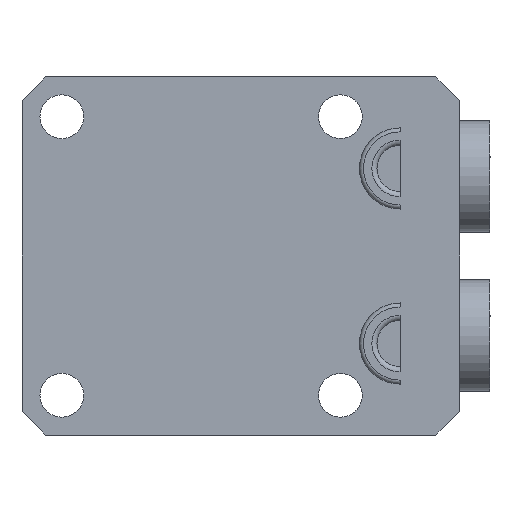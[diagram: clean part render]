
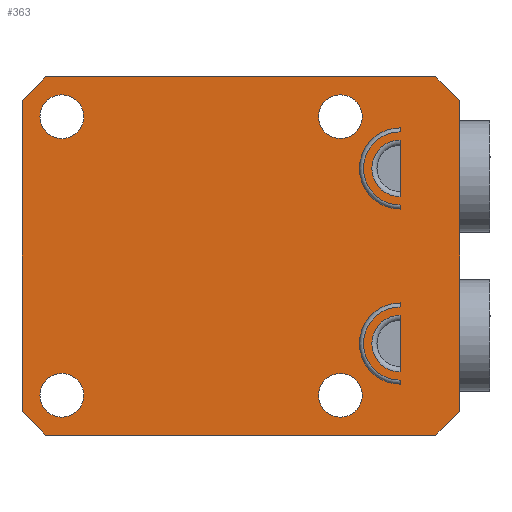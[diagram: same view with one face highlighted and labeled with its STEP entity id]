
A CAD part, front view. The second image highlights one B-rep face of the part: STEP entity #363.
In plain terms, the highlighted planar face has unit normal (0, -1, 0).
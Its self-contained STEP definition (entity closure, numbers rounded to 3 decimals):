
#234=PLANE('',#2644);
#297=FACE_BOUND('',#697,.T.);
#298=FACE_BOUND('',#698,.T.);
#299=FACE_BOUND('',#699,.T.);
#300=FACE_BOUND('',#700,.T.);
#301=FACE_BOUND('',#701,.T.);
#302=FACE_BOUND('',#702,.T.);
#303=FACE_BOUND('',#703,.T.);
#304=FACE_BOUND('',#704,.T.);
#305=FACE_BOUND('',#705,.T.);
#363=ADVANCED_FACE('',(#297,#298,#299,#300,#301,#302,#303,#304,#305),#234,
 .F.);
#697=EDGE_LOOP('',(#1074,#1075,#1076,#1077,#1078,#1079,#1080,#1081));
#698=EDGE_LOOP('',(#1082,#1083,#1084,#1085));
#699=EDGE_LOOP('',(#1086,#1087,#1088,#1089));
#700=EDGE_LOOP('',(#1090,#1091));
#701=EDGE_LOOP('',(#1092,#1093));
#702=EDGE_LOOP('',(#1094,#1095));
#703=EDGE_LOOP('',(#1096,#1097));
#704=EDGE_LOOP('',(#1098,#1099));
#705=EDGE_LOOP('',(#1100,#1101));
#859=CIRCLE('',#2597,4.6);
#868=CIRCLE('',#2608,3.55);
#870=CIRCLE('',#2611,5.1);
#874=CIRCLE('',#2617,5.1);
#877=CIRCLE('',#2622,2.75);
#879=CIRCLE('',#2625,2.75);
#882=CIRCLE('',#2630,2.75);
#884=CIRCLE('',#2633,2.75);
#887=CIRCLE('',#2638,4.6);
#888=CIRCLE('',#2639,2.75);
#889=CIRCLE('',#2640,2.75);
#890=CIRCLE('',#2641,2.75);
#891=CIRCLE('',#2642,2.75);
#892=CIRCLE('',#2643,3.55);
#1074=ORIENTED_EDGE('',*,*,#1924,.F.);
#1075=ORIENTED_EDGE('',*,*,#1984,.T.);
#1076=ORIENTED_EDGE('',*,*,#1985,.F.);
#1077=ORIENTED_EDGE('',*,*,#1986,.T.);
#1078=ORIENTED_EDGE('',*,*,#1987,.F.);
#1079=ORIENTED_EDGE('',*,*,#1988,.T.);
#1080=ORIENTED_EDGE('',*,*,#1989,.F.);
#1081=ORIENTED_EDGE('',*,*,#1990,.T.);
#1082=ORIENTED_EDGE('',*,*,#1938,.T.);
#1083=ORIENTED_EDGE('',*,*,#1991,.T.);
#1084=ORIENTED_EDGE('',*,*,#1926,.T.);
#1085=ORIENTED_EDGE('',*,*,#1992,.T.);
#1086=ORIENTED_EDGE('',*,*,#1946,.F.);
#1087=ORIENTED_EDGE('',*,*,#1993,.T.);
#1088=ORIENTED_EDGE('',*,*,#1994,.F.);
#1089=ORIENTED_EDGE('',*,*,#1995,.T.);
#1090=ORIENTED_EDGE('',*,*,#1956,.F.);
#1091=ORIENTED_EDGE('',*,*,#1996,.F.);
#1092=ORIENTED_EDGE('',*,*,#1952,.F.);
#1093=ORIENTED_EDGE('',*,*,#1997,.F.);
#1094=ORIENTED_EDGE('',*,*,#1964,.F.);
#1095=ORIENTED_EDGE('',*,*,#1998,.F.);
#1096=ORIENTED_EDGE('',*,*,#1968,.F.);
#1097=ORIENTED_EDGE('',*,*,#1999,.F.);
#1098=ORIENTED_EDGE('',*,*,#1935,.F.);
#1099=ORIENTED_EDGE('',*,*,#2000,.T.);
#1100=ORIENTED_EDGE('',*,*,#2001,.T.);
#1101=ORIENTED_EDGE('',*,*,#2002,.T.);
#1698=VERTEX_POINT('',#3675);
#1699=VERTEX_POINT('',#3677);
#1700=VERTEX_POINT('',#3681);
#1701=VERTEX_POINT('',#3682);
#1708=VERTEX_POINT('',#3699);
#1709=VERTEX_POINT('',#3701);
#1710=VERTEX_POINT('',#3705);
#1711=VERTEX_POINT('',#3707);
#1718=VERTEX_POINT('',#3723);
#1719=VERTEX_POINT('',#3725);
#1724=VERTEX_POINT('',#3738);
#1725=VERTEX_POINT('',#3739);
#1728=VERTEX_POINT('',#3747);
#1729=VERTEX_POINT('',#3748);
#1736=VERTEX_POINT('',#3770);
#1737=VERTEX_POINT('',#3771);
#1740=VERTEX_POINT('',#3779);
#1741=VERTEX_POINT('',#3780);
#1756=VERTEX_POINT('',#3845);
#1757=VERTEX_POINT('',#3847);
#1758=VERTEX_POINT('',#3849);
#1759=VERTEX_POINT('',#3851);
#1760=VERTEX_POINT('',#3853);
#1761=VERTEX_POINT('',#3855);
#1762=VERTEX_POINT('',#3860);
#1763=VERTEX_POINT('',#3862);
#1764=VERTEX_POINT('',#3870);
#1765=VERTEX_POINT('',#3871);
#1924=EDGE_CURVE('',#1698,#1699,#2261,.T.);
#1926=EDGE_CURVE('',#1700,#1701,#859,.T.);
#1935=EDGE_CURVE('',#1708,#1709,#868,.T.);
#1938=EDGE_CURVE('',#1711,#1710,#870,.T.);
#1946=EDGE_CURVE('',#1718,#1719,#874,.T.);
#1952=EDGE_CURVE('',#1724,#1725,#877,.T.);
#1956=EDGE_CURVE('',#1728,#1729,#879,.T.);
#1964=EDGE_CURVE('',#1736,#1737,#882,.T.);
#1968=EDGE_CURVE('',#1740,#1741,#884,.T.);
#1984=EDGE_CURVE('',#1698,#1756,#2283,.T.);
#1985=EDGE_CURVE('',#1757,#1756,#2284,.T.);
#1986=EDGE_CURVE('',#1757,#1758,#2285,.T.);
#1987=EDGE_CURVE('',#1759,#1758,#2286,.T.);
#1988=EDGE_CURVE('',#1759,#1760,#2287,.T.);
#1989=EDGE_CURVE('',#1761,#1760,#2288,.T.);
#1990=EDGE_CURVE('',#1761,#1699,#2289,.T.);
#1991=EDGE_CURVE('',#1710,#1700,#2290,.T.);
#1992=EDGE_CURVE('',#1701,#1711,#2291,.T.);
#1993=EDGE_CURVE('',#1718,#1762,#2292,.T.);
#1994=EDGE_CURVE('',#1763,#1762,#887,.T.);
#1995=EDGE_CURVE('',#1763,#1719,#2293,.T.);
#1996=EDGE_CURVE('',#1729,#1728,#888,.T.);
#1997=EDGE_CURVE('',#1725,#1724,#889,.T.);
#1998=EDGE_CURVE('',#1737,#1736,#890,.T.);
#1999=EDGE_CURVE('',#1741,#1740,#891,.T.);
#2000=EDGE_CURVE('',#1708,#1709,#2294,.T.);
#2001=EDGE_CURVE('',#1764,#1765,#892,.T.);
#2002=EDGE_CURVE('',#1765,#1764,#2295,.T.);
#2261=LINE('',#3676,#2421);
#2283=LINE('',#3844,#2443);
#2284=LINE('',#3846,#2444);
#2285=LINE('',#3848,#2445);
#2286=LINE('',#3850,#2446);
#2287=LINE('',#3852,#2447);
#2288=LINE('',#3854,#2448);
#2289=LINE('',#3856,#2449);
#2290=LINE('',#3857,#2450);
#2291=LINE('',#3858,#2451);
#2292=LINE('',#3859,#2452);
#2293=LINE('',#3863,#2453);
#2294=LINE('',#3868,#2454);
#2295=LINE('',#3872,#2455);
#2421=VECTOR('',#2914,1.);
#2443=VECTOR('',#3020,1.);
#2444=VECTOR('',#3021,1.);
#2445=VECTOR('',#3022,1.);
#2446=VECTOR('',#3023,1.);
#2447=VECTOR('',#3024,1.);
#2448=VECTOR('',#3025,1.);
#2449=VECTOR('',#3026,1.);
#2450=VECTOR('',#3027,1.);
#2451=VECTOR('',#3028,1.);
#2452=VECTOR('',#3029,1.);
#2453=VECTOR('',#3032,1.);
#2454=VECTOR('',#3041,1.);
#2455=VECTOR('',#3044,1.);
#2597=AXIS2_PLACEMENT_3D('',#3680,#2918,#2919);
#2608=AXIS2_PLACEMENT_3D('',#3700,#2940,#2941);
#2611=AXIS2_PLACEMENT_3D('',#3706,#2947,#2948);
#2617=AXIS2_PLACEMENT_3D('',#3724,#2963,#2964);
#2622=AXIS2_PLACEMENT_3D('',#3737,#2976,#2977);
#2625=AXIS2_PLACEMENT_3D('',#3746,#2984,#2985);
#2630=AXIS2_PLACEMENT_3D('',#3769,#2998,#2999);
#2633=AXIS2_PLACEMENT_3D('',#3778,#3006,#3007);
#2638=AXIS2_PLACEMENT_3D('',#3861,#3030,#3031);
#2639=AXIS2_PLACEMENT_3D('',#3864,#3033,#3034);
#2640=AXIS2_PLACEMENT_3D('',#3865,#3035,#3036);
#2641=AXIS2_PLACEMENT_3D('',#3866,#3037,#3038);
#2642=AXIS2_PLACEMENT_3D('',#3867,#3039,#3040);
#2643=AXIS2_PLACEMENT_3D('',#3869,#3042,#3043);
#2644=AXIS2_PLACEMENT_3D('',#3873,#3045,#3046);
#2914=DIRECTION('',(0.,0.,-1.));
#2918=DIRECTION('',(0.,-1.,0.));
#2919=DIRECTION('',(0.,0.,-1.));
#2940=DIRECTION('',(0.,-1.,0.));
#2941=DIRECTION('',(0.,0.,-1.));
#2947=DIRECTION('',(0.,1.,0.));
#2948=DIRECTION('',(0.,0.,1.));
#2963=DIRECTION('',(0.,-1.,0.));
#2964=DIRECTION('',(0.,0.,-1.));
#2976=DIRECTION('',(0.,-1.,0.));
#2977=DIRECTION('',(0.,0.,1.));
#2984=DIRECTION('',(0.,-1.,0.));
#2985=DIRECTION('',(0.,0.,1.));
#2998=DIRECTION('',(0.,-1.,0.));
#2999=DIRECTION('',(0.,0.,1.));
#3006=DIRECTION('',(0.,-1.,0.));
#3007=DIRECTION('',(0.,0.,1.));
#3020=DIRECTION('',(-0.707,0.,0.707));
#3021=DIRECTION('',(1.,0.,0.));
#3022=DIRECTION('',(-0.707,0.,-0.707));
#3023=DIRECTION('',(0.,0.,1.));
#3024=DIRECTION('',(0.707,0.,-0.707));
#3025=DIRECTION('',(-1.,0.,0.));
#3026=DIRECTION('',(0.707,0.,0.707));
#3027=DIRECTION('',(0.,0.,-1.));
#3028=DIRECTION('',(0.,0.,-1.));
#3029=DIRECTION('',(0.,0.,-1.));
#3030=DIRECTION('',(0.,1.,0.));
#3031=DIRECTION('',(0.,0.,1.));
#3032=DIRECTION('',(0.,0.,-1.));
#3033=DIRECTION('',(0.,-1.,0.));
#3034=DIRECTION('',(0.,0.,1.));
#3035=DIRECTION('',(0.,-1.,0.));
#3036=DIRECTION('',(0.,0.,1.));
#3037=DIRECTION('',(0.,-1.,0.));
#3038=DIRECTION('',(0.,0.,1.));
#3039=DIRECTION('',(0.,-1.,0.));
#3040=DIRECTION('',(0.,0.,1.));
#3041=DIRECTION('',(0.,0.,-1.));
#3042=DIRECTION('',(0.,1.,0.));
#3043=DIRECTION('',(0.,0.,1.));
#3044=DIRECTION('',(0.,0.,-1.));
#3045=DIRECTION('',(0.,1.,0.));
#3046=DIRECTION('',(0.,0.,1.));
#3675=CARTESIAN_POINT('',(32.5,0.,19.5));
#3676=CARTESIAN_POINT('',(32.5,0.,-22.5));
#3677=CARTESIAN_POINT('',(32.5,0.,-19.5));
#3680=CARTESIAN_POINT('',(25.,0.,11.));
#3681=CARTESIAN_POINT('',(25.,0.,15.6));
#3682=CARTESIAN_POINT('',(25.,0.,6.4));
#3699=CARTESIAN_POINT('',(25.,0.,14.55));
#3700=CARTESIAN_POINT('',(25.,0.,11.));
#3701=CARTESIAN_POINT('',(25.,0.,7.45));
#3705=CARTESIAN_POINT('',(25.,0.,16.1));
#3706=CARTESIAN_POINT('',(25.,0.,11.));
#3707=CARTESIAN_POINT('',(25.,0.,5.9));
#3723=CARTESIAN_POINT('',(25.,0.,-5.9));
#3724=CARTESIAN_POINT('',(25.,0.,-11.));
#3725=CARTESIAN_POINT('',(25.,0.,-16.1));
#3737=CARTESIAN_POINT('',(-17.5,0.,-17.5));
#3738=CARTESIAN_POINT('',(-17.5,0.,-14.75));
#3739=CARTESIAN_POINT('',(-17.5,0.,-20.25));
#3746=CARTESIAN_POINT('',(17.5,0.,-17.5));
#3747=CARTESIAN_POINT('',(17.5,0.,-14.75));
#3748=CARTESIAN_POINT('',(17.5,0.,-20.25));
#3769=CARTESIAN_POINT('',(17.5,0.,17.5));
#3770=CARTESIAN_POINT('',(17.5,0.,20.25));
#3771=CARTESIAN_POINT('',(17.5,0.,14.75));
#3778=CARTESIAN_POINT('',(-17.5,0.,17.5));
#3779=CARTESIAN_POINT('',(-17.5,0.,20.25));
#3780=CARTESIAN_POINT('',(-17.5,0.,14.75));
#3844=CARTESIAN_POINT('',(32.5,0.,19.5));
#3845=CARTESIAN_POINT('',(29.5,0.,22.5));
#3846=CARTESIAN_POINT('',(-22.5,0.,22.5));
#3847=CARTESIAN_POINT('',(-19.5,0.,22.5));
#3848=CARTESIAN_POINT('',(-19.5,0.,22.5));
#3849=CARTESIAN_POINT('',(-22.5,0.,19.5));
#3850=CARTESIAN_POINT('',(-22.5,0.,-22.5));
#3851=CARTESIAN_POINT('',(-22.5,0.,-19.5));
#3852=CARTESIAN_POINT('',(-22.5,0.,-19.5));
#3853=CARTESIAN_POINT('',(-19.5,0.,-22.5));
#3854=CARTESIAN_POINT('',(-22.5,0.,-22.5));
#3855=CARTESIAN_POINT('',(29.5,0.,-22.5));
#3856=CARTESIAN_POINT('',(29.5,0.,-22.5));
#3857=CARTESIAN_POINT('',(25.,0.,-22.5));
#3858=CARTESIAN_POINT('',(25.,0.,-22.5));
#3859=CARTESIAN_POINT('',(25.,0.,-22.5));
#3860=CARTESIAN_POINT('',(25.,0.,-6.4));
#3861=CARTESIAN_POINT('',(25.,0.,-11.));
#3862=CARTESIAN_POINT('',(25.,0.,-15.6));
#3863=CARTESIAN_POINT('',(25.,0.,-22.5));
#3864=CARTESIAN_POINT('',(17.5,0.,-17.5));
#3865=CARTESIAN_POINT('',(-17.5,0.,-17.5));
#3866=CARTESIAN_POINT('',(17.5,0.,17.5));
#3867=CARTESIAN_POINT('',(-17.5,0.,17.5));
#3868=CARTESIAN_POINT('',(25.,0.,-22.5));
#3869=CARTESIAN_POINT('',(25.,0.,-11.));
#3870=CARTESIAN_POINT('',(25.,0.,-14.55));
#3871=CARTESIAN_POINT('',(25.,0.,-7.45));
#3872=CARTESIAN_POINT('',(25.,0.,-22.5));
#3873=CARTESIAN_POINT('',(-22.5,0.,22.5));
